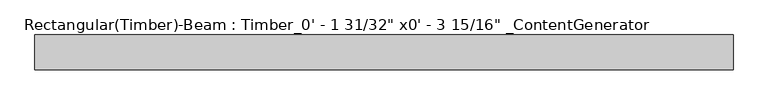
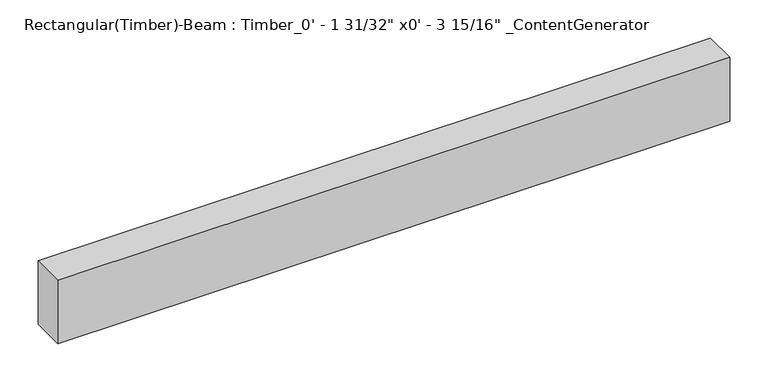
"""IFC4 building model written with IfcOpenShell, lengths in millimetres: beam geometry."""

from ifc_helpers import new_model, si_unit, frame, origin, place, context, project, spatial, polyline, outline, extrude, source, transform, mapped, element, save


def beam_7e1c7bff(model_context):
    return source(origin(), model_context, "Body", "SweptSolid", [
        extrude(outline(polyline([(508.01, 25.4), (508.01, -25.4), (-508.01, -25.4), (-508.01, 25.4), (508.01, 25.4)])), frame((0.0, 0.0, -50.8), z_axis=(0.0, 0.0, 1.0), x_axis=(1.0, 0.0, 0.0)), (0.0, 0.0, 1.0), 101.6),
    ])


if __name__ == "__main__":
    model = new_model("IFC4")
    model_context = context("Model", 3, world=origin())
    ifc_project = project(units=[si_unit("LENGTHUNIT", "METRE", prefix="MILLI")], contexts=[model_context])
    site = spatial("IfcSite", under=ifc_project)
    building = spatial("IfcBuilding", under=site)
    placement = place(None, origin())
    beam_shape = beam_7e1c7bff(model_context)
    element("IfcBeam", 1, ObjectType="Rectangular(Timber)-Beam : Timber_0' - 1 31/32\" x0' - 3 15/16\" _ContentGenerator", at=placement, inside=building, context=model_context, shape_type="MappedRepresentation", body=[
        mapped(beam_shape, transform((0.0, 0.0, 0.0), x_axis=(1.0, 0.0, 0.0), y_axis=(0.0, 1.0, 0.0), z_axis=(0.0, 0.0, 1.0))),
    ])
    save(model, "model.ifc")
